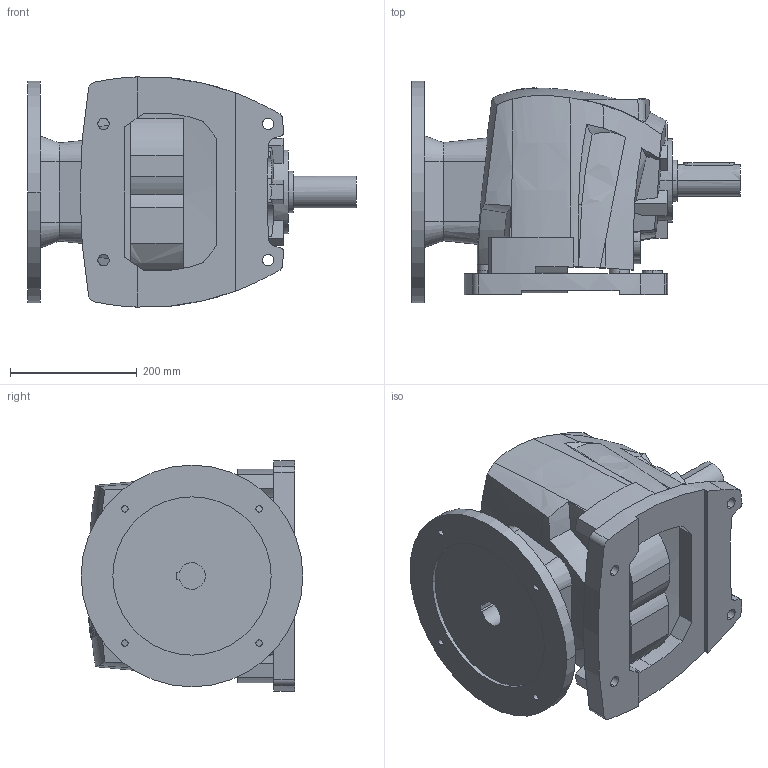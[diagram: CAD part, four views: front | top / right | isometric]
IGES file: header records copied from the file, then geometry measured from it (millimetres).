
Start section:  PTC IGES file: r50_sw_pam160.igs
Global section: file name: r50_sw_pam160.igs; native system: Pro/ENGINEER by Parametric Technology Corporation; preprocessor: 2008230; author: Luca; organization: Unknown; date: 20131221.102125; units: millimetre
Bounding box: 519.5 x 350 x 363.44 mm (x, y, z)
Volume: 26686156.9 mm3; surface area: 929573.6 mm2
Topology: 1 solids, 1 shells, 435 faces, 1247 edges, 843 vertices
Faces by surface type: bspline 263, revolution 172
